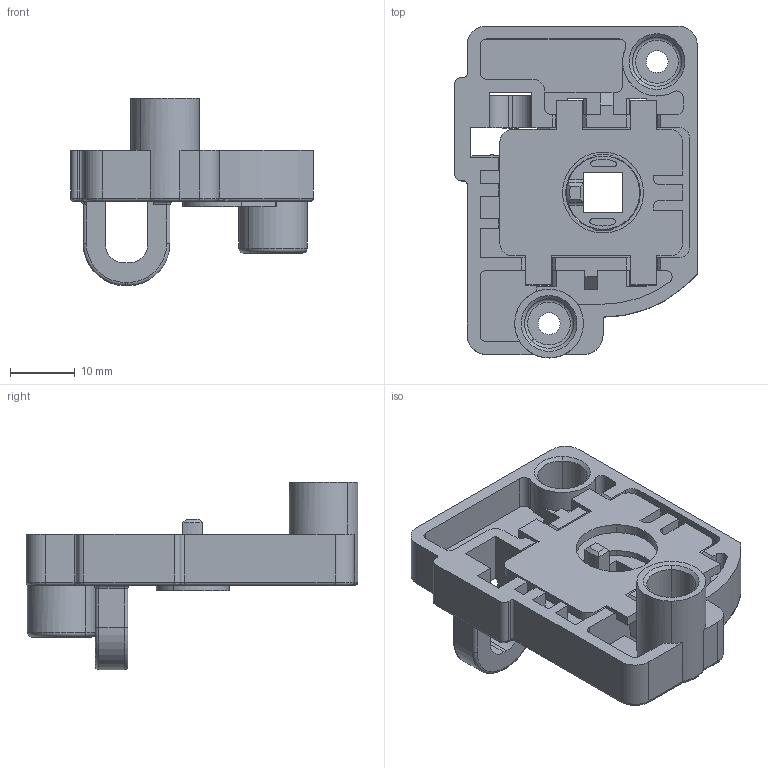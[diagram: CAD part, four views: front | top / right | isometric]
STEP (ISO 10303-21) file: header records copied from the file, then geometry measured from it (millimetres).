
FILE_DESCRIPTION((''),'2;1');
FILE_NAME('PRT0002','2021-07-27T14:24:53',('MBudzinski'),('Rockwell Automation'),'CREO PARAMETRIC BY PTC INC, 2020281','CREO PARAMETRIC BY PTC INC, 2020281','');
FILE_SCHEMA(('CONFIG_CONTROL_DESIGN'));
Length unit declared in the file: inch
Products named in the file (1): PRT0002
Bounding box: 37.4 x 51.2 x 28.9 mm (x, y, z)
Surface area: 9344.8 mm2 (no closed solid volume)
Topology: 0 solids, 4 shells, 327 faces, 1145 edges, 784 vertices
Faces by surface type: plane 193, cylinder 98, torus 24, cone 7, bspline 4, sphere 1
Entity records: 12583 total; most frequent: CARTESIAN_POINT 2621, DIRECTION 2039, ORIENTED_EDGE 1987, EDGE_CURVE 1145, VECTOR 845, LINE 845, VERTEX_POINT 784, AXIS2_PLACEMENT_3D 597
